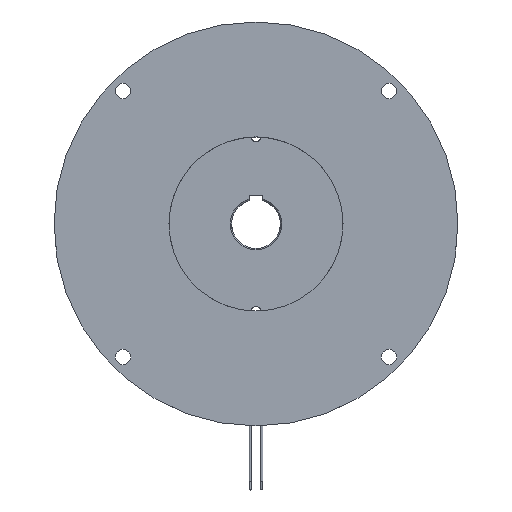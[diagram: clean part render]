
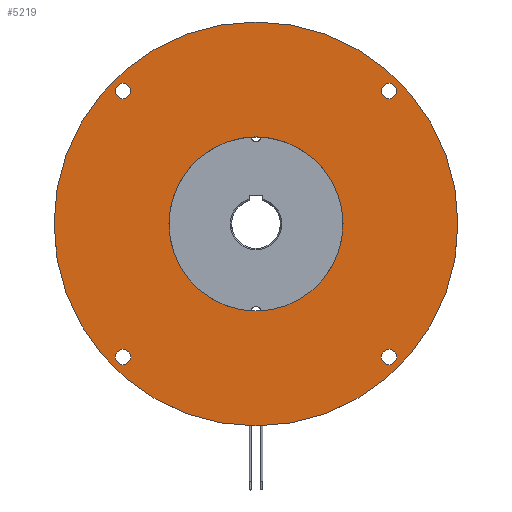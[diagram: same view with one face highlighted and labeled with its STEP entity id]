
A CAD part, top view. The second image highlights one B-rep face of the part: STEP entity #5219.
In plain terms, the highlighted planar face has unit normal (0, 0, 1).
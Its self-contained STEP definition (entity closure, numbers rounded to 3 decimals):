
#611 = AXIS2_PLACEMENT_3D ( 'NONE', #1555, #8947, #7381 ) ;
#681 = CIRCLE ( 'NONE', #8404, 62.5 ) ;
#997 = DIRECTION ( 'NONE',  ( -1., 0., 0. ) ) ;
#1050 = FACE_BOUND ( 'NONE', #5737, .T. ) ;
#1080 = CIRCLE ( 'NONE', #8816, 5.5 ) ;
#1142 = EDGE_LOOP ( 'NONE', ( #9896, #4635 ) ) ;
#1202 = DIRECTION ( 'NONE',  ( 0., 0., -1. ) ) ;
#1212 = EDGE_CURVE ( 'NONE', #9588, #2401, #1963, .T. ) ;
#1238 = CIRCLE ( 'NONE', #2616, 5.5 ) ;
#1326 = CARTESIAN_POINT ( 'NONE',  ( 95.459, -95.459, 0. ) ) ;
#1382 = EDGE_CURVE ( 'NONE', #3513, #3670, #8021, .T. ) ;
#1407 = DIRECTION ( 'NONE',  ( 0., 0., -1. ) ) ;
#1433 = VERTEX_POINT ( 'NONE', #4390 ) ;
#1555 = CARTESIAN_POINT ( 'NONE',  ( 0., 145., 0. ) ) ;
#1560 = DIRECTION ( 'NONE',  ( -1., 0., 0. ) ) ;
#1720 = DIRECTION ( 'NONE',  ( 0., 0., -1. ) ) ;
#1963 = CIRCLE ( 'NONE', #3331, 5.5 ) ;
#2177 = CARTESIAN_POINT ( 'NONE',  ( 100.959, -95.459, 0. ) ) ;
#2273 = CARTESIAN_POINT ( 'NONE',  ( 0., 0., 0. ) ) ;
#2318 = CARTESIAN_POINT ( 'NONE',  ( 62.5, 0., 0. ) ) ;
#2383 = FACE_BOUND ( 'NONE', #1142, .T. ) ;
#2401 = VERTEX_POINT ( 'NONE', #5659 ) ;
#2428 = AXIS2_PLACEMENT_3D ( 'NONE', #7444, #6030, #3357 ) ;
#2437 = CIRCLE ( 'NONE', #3105, 5.5 ) ;
#2525 = CIRCLE ( 'NONE', #3864, 145. ) ;
#2534 = EDGE_CURVE ( 'NONE', #8297, #3307, #3616, .T. ) ;
#2616 = AXIS2_PLACEMENT_3D ( 'NONE', #1326, #6963, #7025 ) ;
#2681 = ORIENTED_EDGE ( 'NONE', *, *, #1212, .T. ) ;
#2717 = VERTEX_POINT ( 'NONE', #9457 ) ;
#3105 = AXIS2_PLACEMENT_3D ( 'NONE', #8585, #1202, #3666 ) ;
#3286 = PLANE ( 'NONE',  #611 ) ;
#3307 = VERTEX_POINT ( 'NONE', #9212 ) ;
#3317 = VERTEX_POINT ( 'NONE', #5958 ) ;
#3331 = AXIS2_PLACEMENT_3D ( 'NONE', #7257, #6387, #6557 ) ;
#3357 = DIRECTION ( 'NONE',  ( -1., 0., 0. ) ) ;
#3413 = ORIENTED_EDGE ( 'NONE', *, *, #7256, .T. ) ;
#3433 = DIRECTION ( 'NONE',  ( 0., 0., -1. ) ) ;
#3513 = VERTEX_POINT ( 'NONE', #10227 ) ;
#3616 = CIRCLE ( 'NONE', #2428, 5.5 ) ;
#3666 = DIRECTION ( 'NONE',  ( -1., 0., 0. ) ) ;
#3670 = VERTEX_POINT ( 'NONE', #7944 ) ;
#3864 = AXIS2_PLACEMENT_3D ( 'NONE', #2273, #1407, #1560 ) ;
#4232 = AXIS2_PLACEMENT_3D ( 'NONE', #5157, #3433, #8399 ) ;
#4390 = CARTESIAN_POINT ( 'NONE',  ( 145., 0., 0. ) ) ;
#4426 = DIRECTION ( 'NONE',  ( -1., 0., 0. ) ) ;
#4578 = ORIENTED_EDGE ( 'NONE', *, *, #5033, .T. ) ;
#4635 = ORIENTED_EDGE ( 'NONE', *, *, #8043, .T. ) ;
#4730 = AXIS2_PLACEMENT_3D ( 'NONE', #8358, #9291, #997 ) ;
#4926 = DIRECTION ( 'NONE',  ( -1., 0., 0. ) ) ;
#4937 = CIRCLE ( 'NONE', #9937, 62.5 ) ;
#4982 = CARTESIAN_POINT ( 'NONE',  ( -95.459, -95.459, 0. ) ) ;
#5033 = EDGE_CURVE ( 'NONE', #3307, #8297, #7641, .T. ) ;
#5076 = CARTESIAN_POINT ( 'NONE',  ( 95.459, -95.459, 0. ) ) ;
#5157 = CARTESIAN_POINT ( 'NONE',  ( 95.459, 95.459, 0. ) ) ;
#5219 = ADVANCED_FACE ( 'NONE', ( #7960, #7658, #1050, #2383, #6394, #9707 ), #3286, .F. ) ;
#5312 = VERTEX_POINT ( 'NONE', #8836 ) ;
#5335 = EDGE_LOOP ( 'NONE', ( #8822, #9231 ) ) ;
#5378 = CARTESIAN_POINT ( 'NONE',  ( 0., 0., 0. ) ) ;
#5456 = ORIENTED_EDGE ( 'NONE', *, *, #2534, .T. ) ;
#5606 = EDGE_CURVE ( 'NONE', #3670, #3513, #8001, .T. ) ;
#5659 = CARTESIAN_POINT ( 'NONE',  ( -89.959, 95.459, 0. ) ) ;
#5707 = VERTEX_POINT ( 'NONE', #2177 ) ;
#5737 = EDGE_LOOP ( 'NONE', ( #4578, #5456 ) ) ;
#5802 = EDGE_CURVE ( 'NONE', #3317, #1433, #2525, .T. ) ;
#5958 = CARTESIAN_POINT ( 'NONE',  ( -145., 0., 0. ) ) ;
#6014 = EDGE_CURVE ( 'NONE', #2717, #8480, #4937, .T. ) ;
#6015 = DIRECTION ( 'NONE',  ( -1., 0., 0. ) ) ;
#6030 = DIRECTION ( 'NONE',  ( 0., 0., -1. ) ) ;
#6059 = CARTESIAN_POINT ( 'NONE',  ( -100.959, 95.459, 0. ) ) ;
#6107 = AXIS2_PLACEMENT_3D ( 'NONE', #7510, #1720, #7413 ) ;
#6146 = DIRECTION ( 'NONE',  ( 0., 0., -1. ) ) ;
#6387 = DIRECTION ( 'NONE',  ( 0., 0., -1. ) ) ;
#6394 = FACE_BOUND ( 'NONE', #6819, .T. ) ;
#6557 = DIRECTION ( 'NONE',  ( -1., 0., 0. ) ) ;
#6578 = CARTESIAN_POINT ( 'NONE',  ( -89.959, -95.459, 0. ) ) ;
#6621 = EDGE_CURVE ( 'NONE', #1433, #3317, #7153, .T. ) ;
#6819 = EDGE_LOOP ( 'NONE', ( #7978, #8260 ) ) ;
#6963 = DIRECTION ( 'NONE',  ( 0., 0., -1. ) ) ;
#7025 = DIRECTION ( 'NONE',  ( -1., 0., 0. ) ) ;
#7153 = CIRCLE ( 'NONE', #6107, 145. ) ;
#7256 = EDGE_CURVE ( 'NONE', #2401, #9588, #2437, .T. ) ;
#7257 = CARTESIAN_POINT ( 'NONE',  ( -95.459, 95.459, 0. ) ) ;
#7381 = DIRECTION ( 'NONE',  ( -1., 0., 0. ) ) ;
#7413 = DIRECTION ( 'NONE',  ( -1., 0., 0. ) ) ;
#7444 = CARTESIAN_POINT ( 'NONE',  ( -95.459, -95.459, 0. ) ) ;
#7510 = CARTESIAN_POINT ( 'NONE',  ( 0., 0., 0. ) ) ;
#7641 = CIRCLE ( 'NONE', #9217, 5.5 ) ;
#7658 = FACE_BOUND ( 'NONE', #9492, .T. ) ;
#7691 = DIRECTION ( 'NONE',  ( 0., 0., -1. ) ) ;
#7708 = EDGE_CURVE ( 'NONE', #5312, #5707, #1238, .T. ) ;
#7944 = CARTESIAN_POINT ( 'NONE',  ( 100.959, 95.459, 0. ) ) ;
#7960 = FACE_OUTER_BOUND ( 'NONE', #9615, .T. ) ;
#7978 = ORIENTED_EDGE ( 'NONE', *, *, #1382, .T. ) ;
#8001 = CIRCLE ( 'NONE', #4730, 5.5 ) ;
#8021 = CIRCLE ( 'NONE', #4232, 5.5 ) ;
#8043 = EDGE_CURVE ( 'NONE', #5707, #5312, #1080, .T. ) ;
#8260 = ORIENTED_EDGE ( 'NONE', *, *, #5606, .T. ) ;
#8297 = VERTEX_POINT ( 'NONE', #6578 ) ;
#8358 = CARTESIAN_POINT ( 'NONE',  ( 95.459, 95.459, 0. ) ) ;
#8365 = DIRECTION ( 'NONE',  ( 0., 0., -1. ) ) ;
#8399 = DIRECTION ( 'NONE',  ( -1., 0., 0. ) ) ;
#8404 = AXIS2_PLACEMENT_3D ( 'NONE', #10157, #6146, #4426 ) ;
#8480 = VERTEX_POINT ( 'NONE', #2318 ) ;
#8585 = CARTESIAN_POINT ( 'NONE',  ( -95.459, 95.459, 0. ) ) ;
#8816 = AXIS2_PLACEMENT_3D ( 'NONE', #5076, #8365, #10154 ) ;
#8822 = ORIENTED_EDGE ( 'NONE', *, *, #6014, .T. ) ;
#8836 = CARTESIAN_POINT ( 'NONE',  ( 89.959, -95.459, 0. ) ) ;
#8947 = DIRECTION ( 'NONE',  ( 0., 0., -1. ) ) ;
#8975 = ORIENTED_EDGE ( 'NONE', *, *, #5802, .F. ) ;
#9187 = DIRECTION ( 'NONE',  ( 0., 0., -1. ) ) ;
#9212 = CARTESIAN_POINT ( 'NONE',  ( -100.959, -95.459, 0. ) ) ;
#9217 = AXIS2_PLACEMENT_3D ( 'NONE', #4982, #9187, #4926 ) ;
#9231 = ORIENTED_EDGE ( 'NONE', *, *, #10363, .T. ) ;
#9291 = DIRECTION ( 'NONE',  ( 0., 0., -1. ) ) ;
#9457 = CARTESIAN_POINT ( 'NONE',  ( -62.5, 0., 0. ) ) ;
#9492 = EDGE_LOOP ( 'NONE', ( #2681, #3413 ) ) ;
#9588 = VERTEX_POINT ( 'NONE', #6059 ) ;
#9615 = EDGE_LOOP ( 'NONE', ( #8975, #9885 ) ) ;
#9707 = FACE_BOUND ( 'NONE', #5335, .T. ) ;
#9885 = ORIENTED_EDGE ( 'NONE', *, *, #6621, .F. ) ;
#9896 = ORIENTED_EDGE ( 'NONE', *, *, #7708, .T. ) ;
#9937 = AXIS2_PLACEMENT_3D ( 'NONE', #5378, #7691, #6015 ) ;
#10154 = DIRECTION ( 'NONE',  ( -1., 0., 0. ) ) ;
#10157 = CARTESIAN_POINT ( 'NONE',  ( 0., 0., 0. ) ) ;
#10227 = CARTESIAN_POINT ( 'NONE',  ( 89.959, 95.459, 0. ) ) ;
#10363 = EDGE_CURVE ( 'NONE', #8480, #2717, #681, .T. ) ;
